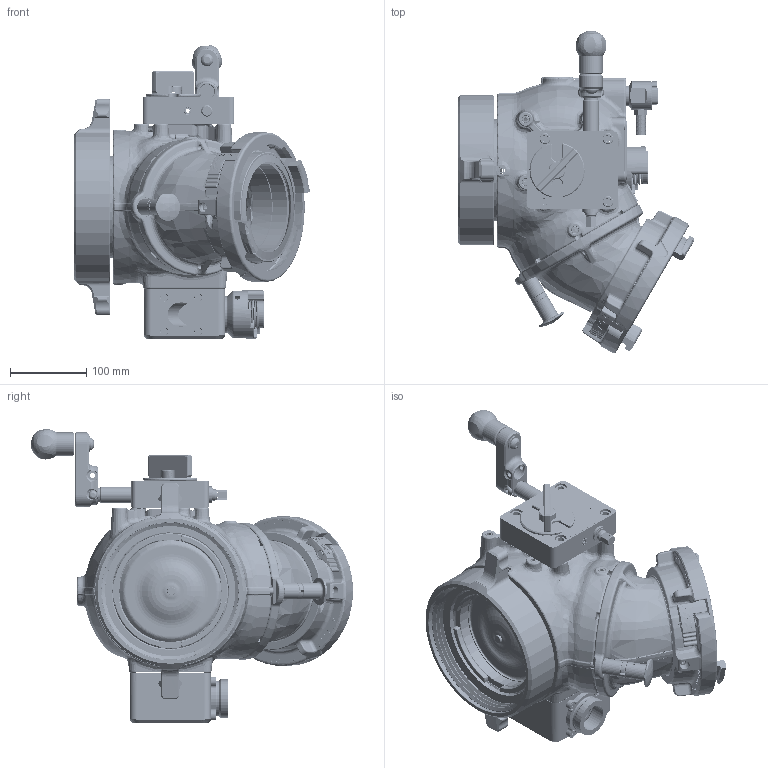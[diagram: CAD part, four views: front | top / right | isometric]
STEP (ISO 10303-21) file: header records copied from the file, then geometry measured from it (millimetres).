
FILE_DESCRIPTION (( 'STEP AP214' ), '1' );
FILE_NAME ('AXD_ASSEMBLY.SLDASM_AXD1ST-NX-T Angled Position.step', '2014-09-12T21:04:34', ( '' ), ( '' ), 'SwSTEP 2.0', 'SolidWorks 2014', '' );
FILE_SCHEMA (( 'AUTOMOTIVE_DESIGN' ));
Length unit declared in the file: inch
Products named in the file (1): AXD_ASSEMBLY.SLDASM_AXD1ST-NX-T Angled Position
Bounding box: 309.07 x 422.43 x 384.51 mm (x, y, z)
Surface area: 700049.4 mm2 (no closed solid volume)
Topology: 0 solids, 360 shells, 3111 faces, 19388 edges, 16377 vertices
Faces by surface type: plane 1070, cylinder 674, bspline 609, cone 414, torus 307, sphere 37
Entity records: 307913 total; most frequent: CARTESIAN_POINT 136459, ORIENTED_EDGE 25248, DIRECTION 21395, EDGE_CURVE 19373, VERTEX_POINT 16375, VECTOR 10211, LINE 10211, AXIS2_PLACEMENT_3D 5592
